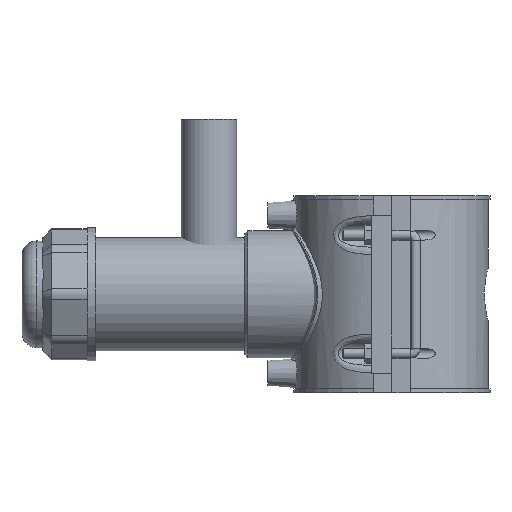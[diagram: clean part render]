
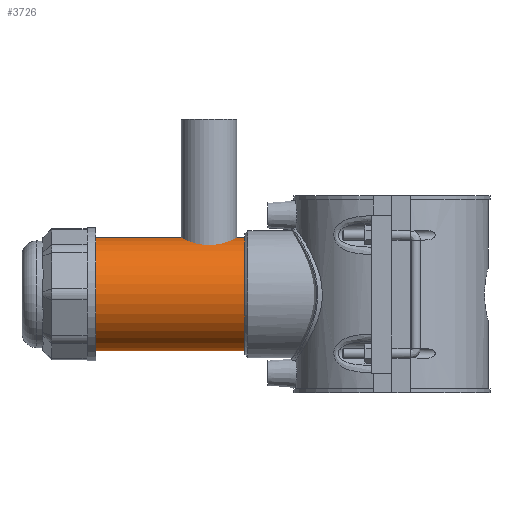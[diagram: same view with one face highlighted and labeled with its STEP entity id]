
A CAD part, left-side view. The second image highlights one B-rep face of the part: STEP entity #3726.
In plain terms, the highlighted cylindrical face has radius 33.928 mm (diameter 67.856 mm), a full revolution.
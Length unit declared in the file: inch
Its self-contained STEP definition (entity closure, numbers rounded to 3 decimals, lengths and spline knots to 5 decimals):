
#317=CIRCLE('',#4055,1.33574);
#318=CIRCLE('',#4056,1.33574);
#333=CIRCLE('',#4087,1.33574);
#334=CIRCLE('',#4088,1.33574);
#548=FACE_OUTER_BOUND('',#774,.T.);
#774=EDGE_LOOP('',(#3440,#3441,#3442,#3443,#3444,#3445));
#1100=LINE('',#7836,#1420);
#1420=VECTOR('',#5091,1.33574);
#1818=VERTEX_POINT('',#7770);
#1819=VERTEX_POINT('',#7771);
#1835=VERTEX_POINT('',#7832);
#1836=VERTEX_POINT('',#7833);
#2345=EDGE_CURVE('',#1818,#1819,#317,.T.);
#2346=EDGE_CURVE('',#1819,#1818,#318,.T.);
#2374=EDGE_CURVE('',#1835,#1836,#333,.T.);
#2375=EDGE_CURVE('',#1836,#1835,#334,.T.);
#2376=EDGE_CURVE('',#1836,#1819,#1100,.T.);
#3440=ORIENTED_EDGE('',*,*,#2374,.F.);
#3441=ORIENTED_EDGE('',*,*,#2375,.F.);
#3442=ORIENTED_EDGE('',*,*,#2376,.T.);
#3443=ORIENTED_EDGE('',*,*,#2346,.T.);
#3444=ORIENTED_EDGE('',*,*,#2345,.T.);
#3445=ORIENTED_EDGE('',*,*,#2376,.F.);
#3525=CYLINDRICAL_SURFACE('',#4086,1.33574);
#3726=ADVANCED_FACE('',(#548),#3525,.T.);
#4055=AXIS2_PLACEMENT_3D('',#7772,#5010,#5011);
#4056=AXIS2_PLACEMENT_3D('',#7773,#5012,#5013);
#4086=AXIS2_PLACEMENT_3D('',#7831,#5085,#5086);
#4087=AXIS2_PLACEMENT_3D('',#7834,#5087,#5088);
#4088=AXIS2_PLACEMENT_3D('',#7835,#5089,#5090);
#5010=DIRECTION('center_axis',(0.,1.,0.));
#5011=DIRECTION('ref_axis',(1.,0.,0.));
#5012=DIRECTION('center_axis',(0.,1.,0.));
#5013=DIRECTION('ref_axis',(1.,0.,0.));
#5085=DIRECTION('center_axis',(0.,1.,0.));
#5086=DIRECTION('ref_axis',(0.,0.,1.));
#5087=DIRECTION('center_axis',(0.,1.,0.));
#5088=DIRECTION('ref_axis',(1.,0.,0.));
#5089=DIRECTION('center_axis',(0.,1.,0.));
#5090=DIRECTION('ref_axis',(1.,0.,0.));
#5091=DIRECTION('',(0.,-1.,0.));
#7770=CARTESIAN_POINT('',(0.,3.4601,1.33574));
#7771=CARTESIAN_POINT('',(0.,3.4601,-1.33574));
#7772=CARTESIAN_POINT('Origin',(0.,3.4601,0.));
#7773=CARTESIAN_POINT('Origin',(0.,3.4601,0.));
#7831=CARTESIAN_POINT('Origin',(0.,5.21683,0.));
#7832=CARTESIAN_POINT('',(0.,6.97356,1.33574));
#7833=CARTESIAN_POINT('',(0.,6.97356,-1.33574));
#7834=CARTESIAN_POINT('Origin',(0.,6.97356,0.));
#7835=CARTESIAN_POINT('Origin',(0.,6.97356,0.));
#7836=CARTESIAN_POINT('',(0.,5.21683,-1.33574));
